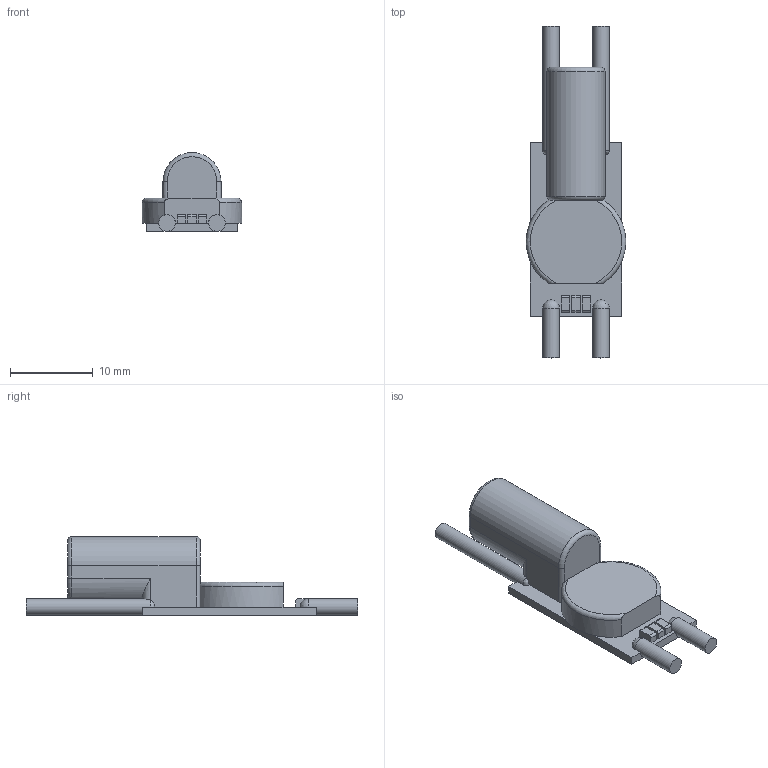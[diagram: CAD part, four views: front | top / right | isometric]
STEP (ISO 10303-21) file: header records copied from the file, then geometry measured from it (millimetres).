
FILE_DESCRIPTION(/* description */ (''),/* implementation_level */ '2;1');
FILE_NAME(/* name */ 'UBEC.step',/* time_stamp */ '2023-12-12T15:53:53+01:00',/* author */ (''),/* organization */ (''),/* preprocessor_version */ 'ST-DEVELOPER v20',/* originating_system */ 'Autodesk Translation Framework v12.14.0.127',/* authorisation */ '');
FILE_SCHEMA (('AUTOMOTIVE_DESIGN { 1 0 10303 214 3 1 1 }'));
Length unit declared in the file: millimetre
Products named in the file (1): UBEC
Bounding box: 12 x 40 x 9.5 mm (x, y, z)
Volume: 1490.9 mm3; surface area: 1284.7 mm2
Topology: 1 solids, 1 shells, 68 faces, 178 edges, 111 vertices
Faces by surface type: plane 39, cylinder 20, torus 5, bspline 2, sphere 2
Full cylindrical faces by diameter (mm): 2 x4
Entity records: 2173 total; most frequent: CARTESIAN_POINT 460, DIRECTION 362, ORIENTED_EDGE 348, EDGE_CURVE 174, AXIS2_PLACEMENT_3D 131, VERTEX_POINT 111, LINE 100, VECTOR 100
